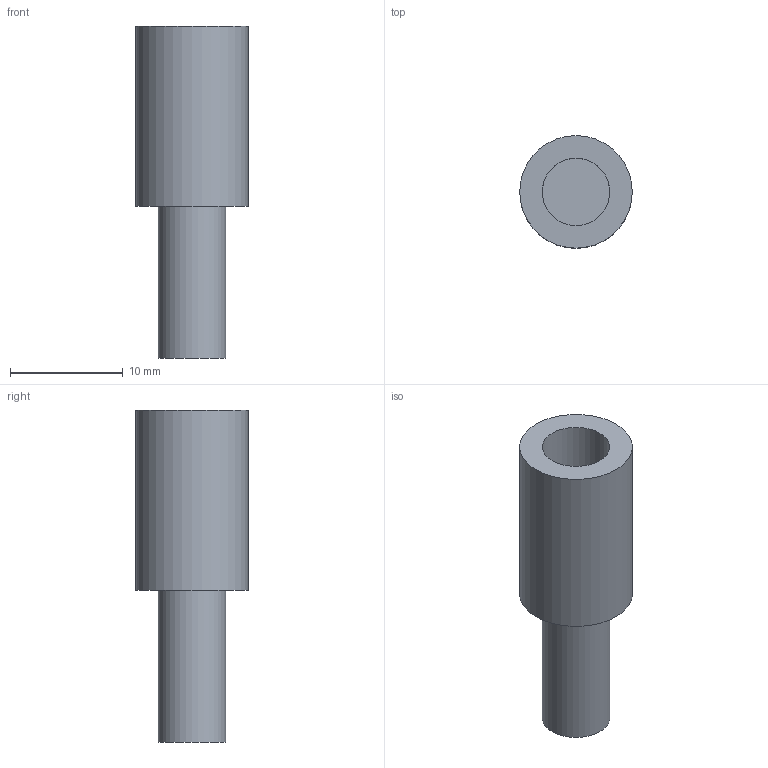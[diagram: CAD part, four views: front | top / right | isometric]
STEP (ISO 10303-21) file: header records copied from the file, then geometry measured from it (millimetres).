
FILE_DESCRIPTION(('Open CASCADE Model'),'2;1');
FILE_NAME('Open CASCADE Shape Model','2026-10-17T21:05:49',('Author'),( 'Open CASCADE'),'Open CASCADE STEP processor 7.9','Open CASCADE 7.9' ,'Unknown');
FILE_SCHEMA(('AUTOMOTIVE_DESIGN { 1 0 10303 214 1 1 1 1 }'));
Length unit declared in the file: millimetre
Products named in the file (1): Open CASCADE STEP translator 7.9 12
Bounding box: 10 x 10 x 29.5 mm (x, y, z)
Volume: 1412.1 mm3; surface area: 1065 mm2
Topology: 1 solids, 1 shells, 7 faces, 9 edges, 6 vertices
Faces by surface type: plane 4, cylinder 3
Full cylindrical faces by diameter (mm): 6 x2, 10 x1
Entity records: 282 total; most frequent: CARTESIAN_POINT 53, DIRECTION 47, ORIENTED_EDGE 18, PCURVE 18, DEFINITIONAL_REPRESENTATION 18, LINE 15, VECTOR 15, AXIS2_PLACEMENT_3D 14
